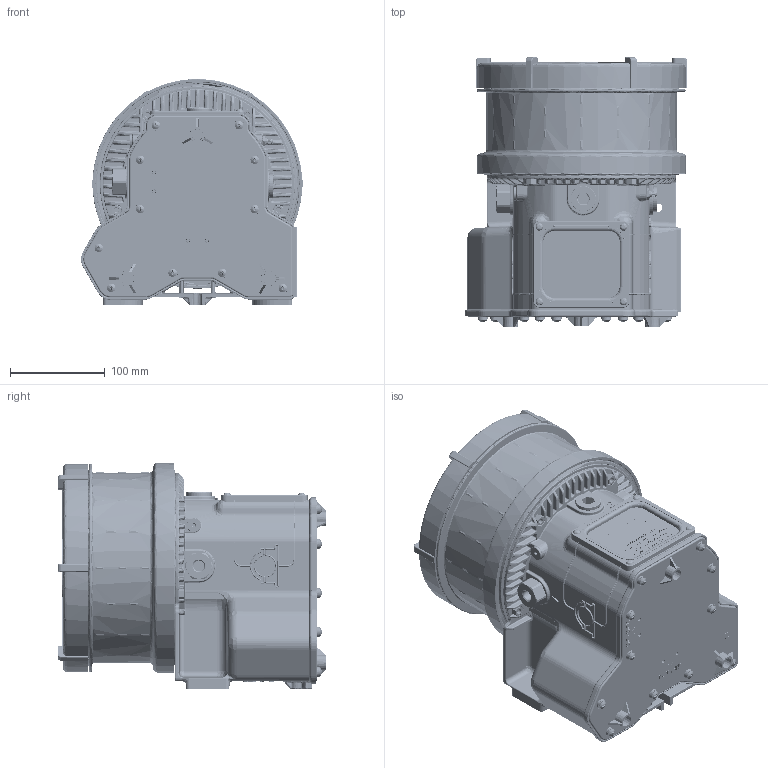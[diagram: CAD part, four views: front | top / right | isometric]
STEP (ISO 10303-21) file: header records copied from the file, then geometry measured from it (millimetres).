
FILE_DESCRIPTION (( 'STEP AP203' ), '1' );
FILE_NAME ('9030 2024 01_X3_2KG_Fett.STEP', '2023-06-19T08:27:15', ( '' ), ( '' ), 'SwSTEP 2.0', 'SolidWorks 2022', '' );
FILE_SCHEMA (( 'CONFIG_CONTROL_DESIGN' ));
Length unit declared in the file: millimetre
Products named in the file (1): 9030 2024 01_X3_2KG_Fett
Bounding box: 234.44 x 284 x 238.7 mm (x, y, z)
Surface area: 936127.9 mm2 (no closed solid volume)
Topology: 0 solids, 90 shells, 10364 faces, 26789 edges, 16468 vertices
Faces by surface type: bspline 4273, plane 3726, cylinder 1490, cone 875
Full cylindrical faces by diameter (mm): 1.5 x1, 2.85 x5, 4.1 x4, 5 x11, 5.5 x2, 6 x1, 8.8 x11, 10 x11, 11 x2, 11.5 x1, 13.5 x1, 14.5 x1, 15 x1, 20 x3, 20.5 x2, 22 x1, 27 x2, 70 x1, 201 x1, 204 x1, 205 x1, 215 x1, 216.7 x1, 218.5 x1, 220 x1, 221.4 x1
Entity records: 581264 total; most frequent: CARTESIAN_POINT 381615, ORIENTED_EDGE 51923, EDGE_CURVE 26013, DIRECTION 24883, VERTEX_POINT 16182, B_SPLINE_CURVE_WITH_KNOTS 13694, EDGE_LOOP 11012, FACE_OUTER_BOUND 10440
